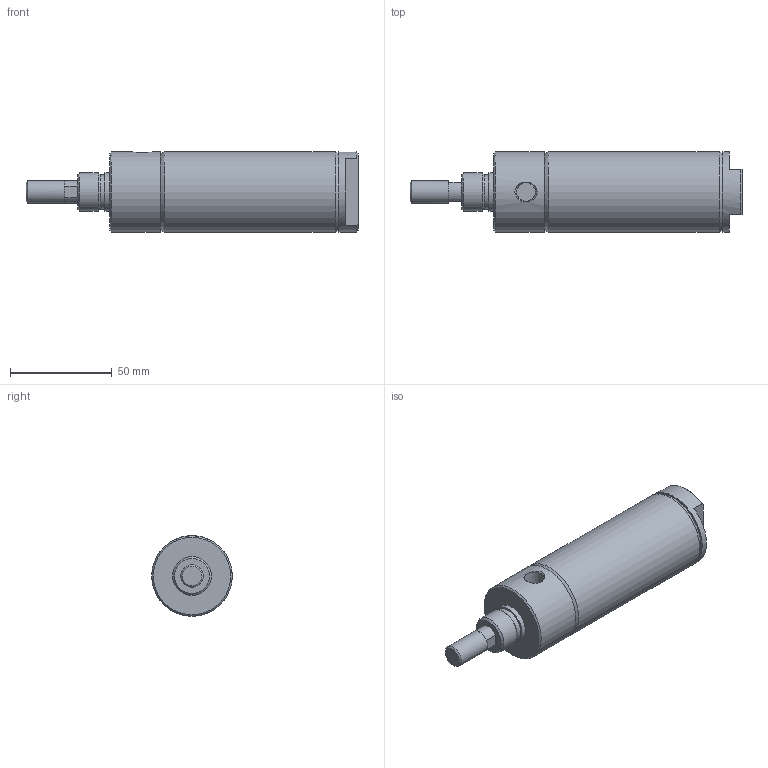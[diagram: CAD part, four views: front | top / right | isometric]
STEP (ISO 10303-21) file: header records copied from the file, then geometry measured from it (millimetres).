
FILE_DESCRIPTION( ( 'STEP AP214' ), '1' );
FILE_NAME( 'p:/temp/worker_521/temp/exporttempdir_5020_150_msVgc/format_0/1500D01-02A.stp', '2020-05-07T18:26:24', ( 'License CC BY-ND 4.0' ), ( 'CADENAS' ), ' ', 'PARTsolutions', ' ' );
FILE_SCHEMA( ( 'AUTOMOTIVE_DESIGN { 1 0 10303 214 1 1 1 1 }' ) );
Length unit declared in the file: inch
Products named in the file (3): 1500D01-02A; _1500D01-02A-0000A00A0b; _1500D01-02A-000r
Assembly tree (2 placements, depth 2):
  1500D01-02A
    _1500D01-02A-0000A00A0b
    _1500D01-02A-000r
Bounding box: 163.53 x 39.73 x 39.73 mm (x, y, z)
Volume: 100980.7 mm3; surface area: 43507.5 mm2
Topology: 2 solids, 2 shells, 50 faces, 96 edges, 60 vertices
Faces by surface type: plane 26, cone 12, cylinder 12
Full cylindrical faces by diameter (mm): 11.112 x1, 11.125 x3, 17.178 x1, 19.025 x1, 19.05 x1, 38.1 x2, 39.7 x2, 39.726 x1
Entity records: 1653 total; most frequent: CARTESIAN_POINT 265, DIRECTION 216, ORIENTED_EDGE 140, AXIS2_PLACEMENT_3D 98, EDGE_LOOP 82, EDGE_CURVE 70, FACE_OUTER_BOUND 62, VERTEX_POINT 56
